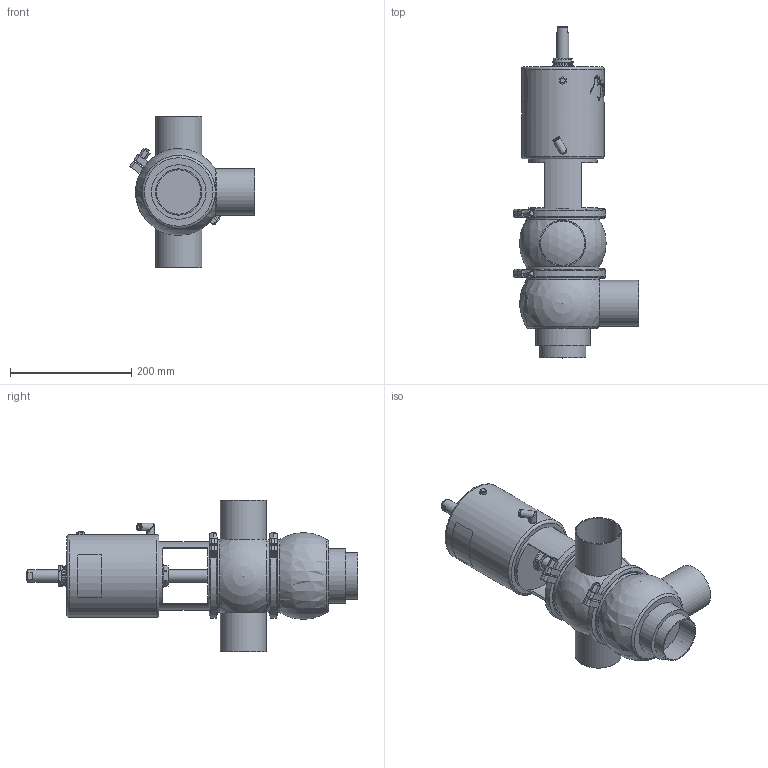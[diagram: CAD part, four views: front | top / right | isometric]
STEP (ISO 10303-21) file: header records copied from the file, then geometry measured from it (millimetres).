
FILE_DESCRIPTION (( 'STEP AP214' ), '1' );
FILE_NAME ('INNOVA K E W OD 3 T3 AS NC_10.240.16.0022.STEP', '2024-08-06T10:53:57', ( '' ), ( '' ), 'SwSTEP 2.0', 'SolidWorks 2023', '' );
FILE_SCHEMA (( 'AUTOMOTIVE_DESIGN' ));
Length unit declared in the file: millimetre
Products named in the file (6): 10.240.15.0007_OD 3"; 10.240.15.0002_OD 3"; 10.240.15.0001_DN 080; 10.240.15.0010_DN 080; INNOVA K E W OD 3 T3 AS NC_10.240.16.0022; 10.240.15.0014_T3 AS P0
Assembly tree (6 placements, depth 2):
  INNOVA K E W OD 3 T3 AS NC_10.240.16.0022
    10.240.15.0007_OD 3"
    10.240.15.0002_OD 3"
    10.240.15.0010_DN 080
    10.240.15.0014_T3 AS P0
    10.240.15.0001_DN 080  x2
Bounding box: 206.43 x 547 x 250 mm (x, y, z)
Volume: 5399320.2 mm3; surface area: 472057.6 mm2
Topology: 6 solids, 6 shells, 401 faces, 1054 edges, 690 vertices
Faces by surface type: plane 194, cylinder 91, bspline 80, cone 26, sphere 5, torus 5
Full cylindrical faces by diameter (mm): 6.15 x1, 8 x5, 8.5 x1, 10.5 x1, 12.5 x3, 16 x1, 20 x2, 31 x1, 34.5 x2, 36.5 x1, 72.9 x4, 76.2 x4, 90 x1, 113 x1, 120 x3, 132 x4, 136 x1
Entity records: 20745 total; most frequent: CARTESIAN_POINT 11399, ORIENTED_EDGE 1624, DIRECTION 1261, EDGE_CURVE 812, VERTEX_POINT 563, AXIS2_PLACEMENT_3D 486, EDGE_LOOP 431, FACE_OUTER_BOUND 384
